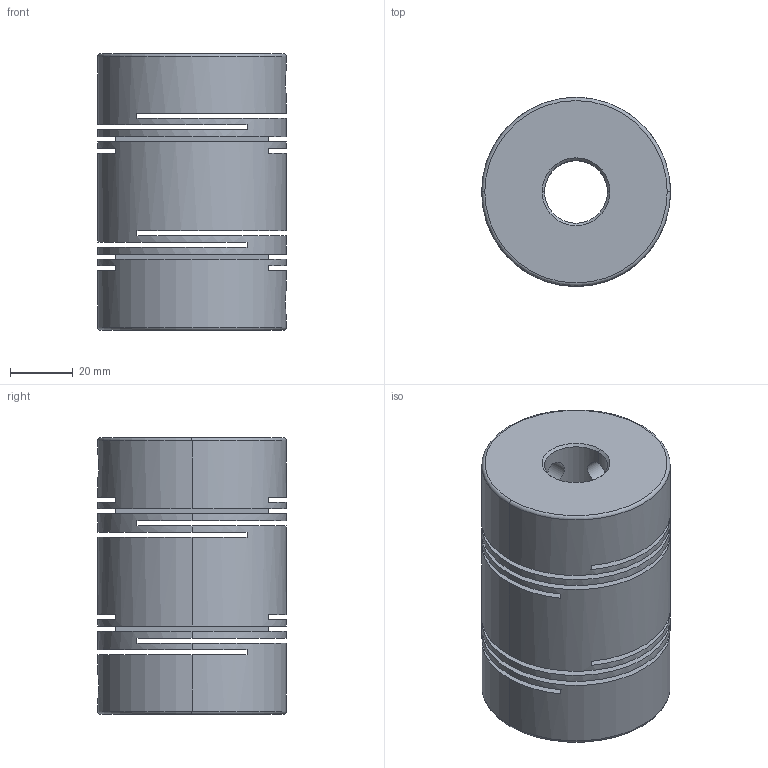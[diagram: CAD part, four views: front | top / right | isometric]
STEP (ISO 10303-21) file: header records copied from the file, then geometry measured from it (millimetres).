
FILE_DESCRIPTION (( 'STEP AP214' ), '1' );
FILE_NAME ('SRB-60.STEP', '2009-05-20T08:36:18', ( '歜煽繹' ), ( '' ), 'SwSTEP 2.0', 'SolidWorks 2007', '' );
FILE_SCHEMA (( 'AUTOMOTIVE_DESIGN' ));
Length unit declared in the file: millimetre
Products named in the file (1): SRB-60
Bounding box: 60 x 60 x 88 mm (x, y, z)
Volume: 190280.8 mm3; surface area: 60047.5 mm2
Topology: 1 solids, 1 shells, 74 faces, 204 edges, 128 vertices
Faces by surface type: cylinder 32, plane 26, bspline 8, torus 4, cone 4
Entity records: 3255 total; most frequent: CARTESIAN_POINT 1307, ORIENTED_EDGE 408, DIRECTION 398, EDGE_CURVE 204, AXIS2_PLACEMENT_3D 159, VERTEX_POINT 128, EDGE_LOOP 96, CIRCLE 92
